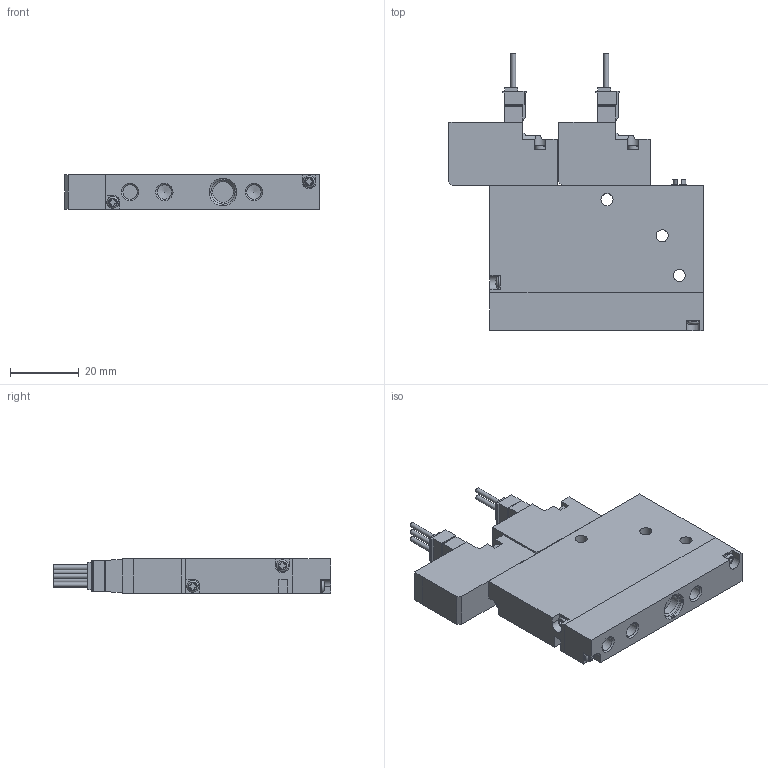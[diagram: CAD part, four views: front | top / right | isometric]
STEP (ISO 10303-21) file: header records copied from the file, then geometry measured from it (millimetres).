
FILE_DESCRIPTION(('STEP AP203'),'1');
FILE_NAME('BMPV42SZZ5W.stp','2025-04-30T01:04:57',(' '),(' '),'Spatial InterOp 3D',' ',' ');
FILE_SCHEMA(('CONFIG_CONTROL_DESIGN'));
Length unit declared in the file: millimetre
Products named in the file (5): BMPV42SZZ5W; VACUUM VALVE FUNCTION MPV42-W; VACUUM VALVE FUNCTION MPV42-A; UNIT-MPV42; MPV42-S10R-1
Assembly tree (4 placements, depth 2):
  BMPV42SZZ5W
    VACUUM VALVE FUNCTION MPV42-W
    VACUUM VALVE FUNCTION MPV42-A
    UNIT-MPV42
    MPV42-S10R-1
Bounding box: 74 x 80.45 x 10 mm (x, y, z)
Volume: 35586.2 mm3; surface area: 14295.3 mm2
Topology: 4 solids, 4 shells, 335 faces, 879 edges, 577 vertices
Faces by surface type: plane 252, cylinder 62, cone 13, sphere 4, torus 4
Full cylindrical faces by diameter (mm): 1.4 x5, 1.8 x1, 2.2 x2, 3 x4, 3.5 x9, 4.134 x4, 5 x1, 6 x1, 7 x1
Entity records: 10267 total; most frequent: CARTESIAN_POINT 1924, DIRECTION 1643, ORIENTED_EDGE 1630, EDGE_CURVE 815, LINE 619, VECTOR 619, VERTEX_POINT 561, AXIS2_PLACEMENT_3D 512
